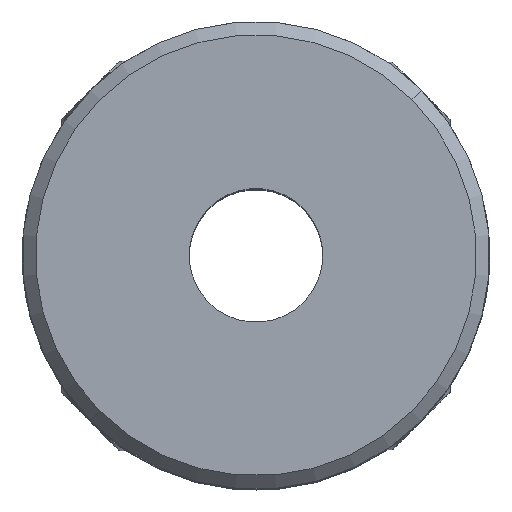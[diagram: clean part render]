
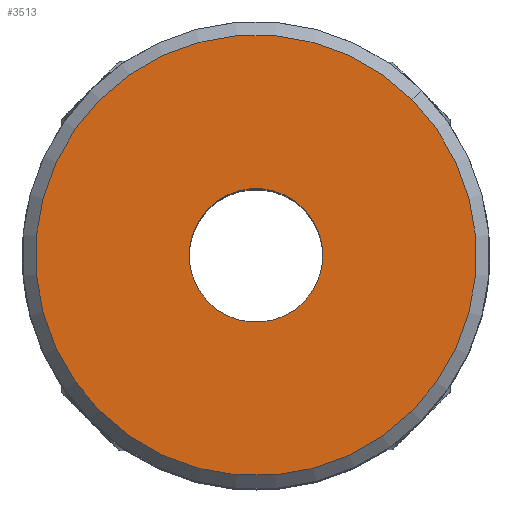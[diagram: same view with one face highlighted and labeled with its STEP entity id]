
A CAD part, top view. The second image highlights one B-rep face of the part: STEP entity #3513.
In plain terms, the highlighted planar face has unit normal (0, 0, 1).
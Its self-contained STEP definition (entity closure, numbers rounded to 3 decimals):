
#32 = DIRECTION ( 'NONE',  ( 0., 0., -1. ) ) ;
#94 = EDGE_LOOP ( 'NONE', ( #8279, #1036 ) ) ;
#228 = DIRECTION ( 'NONE',  ( 0., 0., 1. ) ) ;
#305 = VERTEX_POINT ( 'NONE', #6342 ) ;
#440 = DIRECTION ( 'NONE',  ( -0.707, -0.707, 0. ) ) ;
#679 = CARTESIAN_POINT ( 'NONE',  ( 1.414, 1.414, 11. ) ) ;
#791 = CARTESIAN_POINT ( 'NONE',  ( -1.414, -1.414, 11. ) ) ;
#811 = PLANE ( 'NONE',  #8395 ) ;
#1032 = EDGE_CURVE ( 'NONE', #5367, #4156, #9908, .T. ) ;
#1036 = ORIENTED_EDGE ( 'NONE', *, *, #5604, .T. ) ;
#1154 = CARTESIAN_POINT ( 'NONE',  ( 0., 0., 11. ) ) ;
#1247 = ORIENTED_EDGE ( 'NONE', *, *, #1032, .T. ) ;
#1568 = CIRCLE ( 'NONE', #10024, 6.6 ) ;
#1737 = CARTESIAN_POINT ( 'NONE',  ( 0., 0., 11. ) ) ;
#2251 = AXIS2_PLACEMENT_3D ( 'NONE', #9653, #4687, #440 ) ;
#2457 = DIRECTION ( 'NONE',  ( -0.707, -0.707, 0. ) ) ;
#2794 = CARTESIAN_POINT ( 'NONE',  ( 4.667, 4.667, 11. ) ) ;
#3513 = ADVANCED_FACE ( 'NONE', ( #8384, #8642 ), #811, .F. ) ;
#3697 = VERTEX_POINT ( 'NONE', #2794 ) ;
#3860 = CIRCLE ( 'NONE', #8611, 6.6 ) ;
#4156 = VERTEX_POINT ( 'NONE', #679 ) ;
#4461 = AXIS2_PLACEMENT_3D ( 'NONE', #8316, #5801, #2457 ) ;
#4687 = DIRECTION ( 'NONE',  ( 0., 0., -1. ) ) ;
#5067 = ORIENTED_EDGE ( 'NONE', *, *, #9147, .T. ) ;
#5081 = DIRECTION ( 'NONE',  ( -0.707, -0.707, 0. ) ) ;
#5361 = CIRCLE ( 'NONE', #4461, 2. ) ;
#5367 = VERTEX_POINT ( 'NONE', #791 ) ;
#5604 = EDGE_CURVE ( 'NONE', #3697, #305, #3860, .T. ) ;
#5801 = DIRECTION ( 'NONE',  ( 0., 0., -1. ) ) ;
#6077 = DIRECTION ( 'NONE',  ( -0.707, -0.707, 0. ) ) ;
#6342 = CARTESIAN_POINT ( 'NONE',  ( -4.667, -4.667, 11. ) ) ;
#6674 = CARTESIAN_POINT ( 'NONE',  ( 0., 0., 11. ) ) ;
#6983 = EDGE_LOOP ( 'NONE', ( #1247, #5067 ) ) ;
#8279 = ORIENTED_EDGE ( 'NONE', *, *, #9878, .T. ) ;
#8316 = CARTESIAN_POINT ( 'NONE',  ( 0., 0., 11. ) ) ;
#8384 = FACE_OUTER_BOUND ( 'NONE', #94, .T. ) ;
#8395 = AXIS2_PLACEMENT_3D ( 'NONE', #6674, #32, #5081 ) ;
#8538 = DIRECTION ( 'NONE',  ( 0., 0., 1. ) ) ;
#8611 = AXIS2_PLACEMENT_3D ( 'NONE', #1154, #228, #6077 ) ;
#8642 = FACE_BOUND ( 'NONE', #6983, .T. ) ;
#9147 = EDGE_CURVE ( 'NONE', #4156, #5367, #5361, .T. ) ;
#9399 = DIRECTION ( 'NONE',  ( -0.707, -0.707, 0. ) ) ;
#9653 = CARTESIAN_POINT ( 'NONE',  ( 0., 0., 11. ) ) ;
#9878 = EDGE_CURVE ( 'NONE', #305, #3697, #1568, .T. ) ;
#9908 = CIRCLE ( 'NONE', #2251, 2. ) ;
#10024 = AXIS2_PLACEMENT_3D ( 'NONE', #1737, #8538, #9399 ) ;
